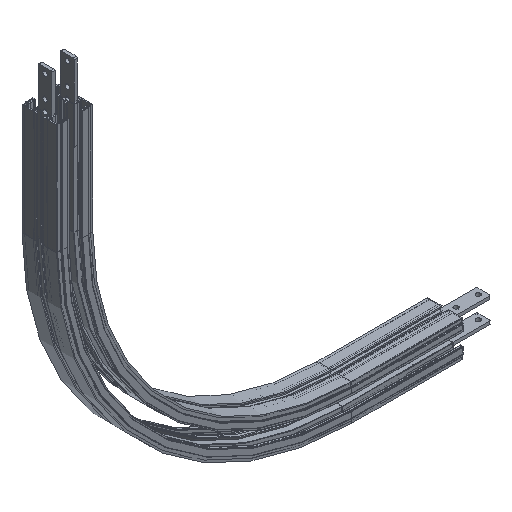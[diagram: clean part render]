
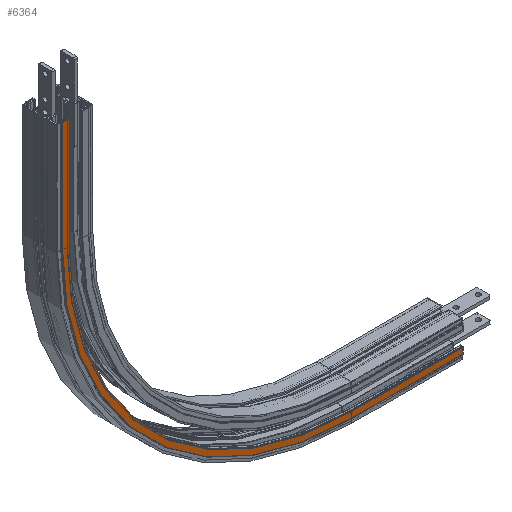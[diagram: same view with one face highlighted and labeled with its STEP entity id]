
A CAD part, isometric view. The second image highlights one B-rep face of the part: STEP entity #6364.
In plain terms, the highlighted planar face has unit normal (0, -1, 0) as drawn and (0, 1, 0) by its records, which use the part's own axes.
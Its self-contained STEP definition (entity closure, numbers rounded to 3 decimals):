
#395 = ORIENTED_EDGE ( 'NONE', *, *, #470, .F. ) ;
#396 = ORIENTED_EDGE ( 'NONE', *, *, #471, .F. ) ;
#397 = ORIENTED_EDGE ( 'NONE', *, *, #472, .F. ) ;
#398 = ORIENTED_EDGE ( 'NONE', *, *, #473, .T. ) ;
#399 = ORIENTED_EDGE ( 'NONE', *, *, #467, .T. ) ;
#400 = ORIENTED_EDGE ( 'NONE', *, *, #474, .T. ) ;
#401 = ORIENTED_EDGE ( 'NONE', *, *, #475, .T. ) ;
#402 = ORIENTED_EDGE ( 'NONE', *, *, #476, .F. ) ;
#467 = EDGE_CURVE ( 'NONE', #6176, #6172, #16965, .T. ) ;
#470 = EDGE_CURVE ( 'NONE', #6178, #6169, #16996, .T. ) ;
#471 = EDGE_CURVE ( 'NONE', #6177, #6178, #6218, .T. ) ;
#472 = EDGE_CURVE ( 'NONE', #6179, #6177, #6217, .T. ) ;
#473 = EDGE_CURVE ( 'NONE', #6179, #6176, #6209, .T. ) ;
#474 = EDGE_CURVE ( 'NONE', #6172, #6173, #6227, .T. ) ;
#475 = EDGE_CURVE ( 'NONE', #6173, #6182, #6230, .T. ) ;
#476 = EDGE_CURVE ( 'NONE', #6169, #6182, #6233, .T. ) ;
#4837 = EDGE_LOOP ( 'NONE', ( #395, #396, #397, #398, #399, #400, #401, #402 ) ) ;
#6169 = VERTEX_POINT ( 'NONE', #15971 ) ;
#6172 = VERTEX_POINT ( 'NONE', #15974 ) ;
#6173 = VERTEX_POINT ( 'NONE', #15975 ) ;
#6176 = VERTEX_POINT ( 'NONE', #15978 ) ;
#6177 = VERTEX_POINT ( 'NONE', #15979 ) ;
#6178 = VERTEX_POINT ( 'NONE', #15980 ) ;
#6179 = VERTEX_POINT ( 'NONE', #15981 ) ;
#6182 = VERTEX_POINT ( 'NONE', #15984 ) ;
#6206 = CARTESIAN_POINT ( 'NONE',  ( 200., 1.6, 500. ) ) ;
#6207 = DIRECTION ( 'NONE',  ( 0., 1., 0. ) ) ;
#6208 = DIRECTION ( 'NONE',  ( 0., 0., 1. ) ) ;
#6209 = LINE ( 'NONE', #6225, #16973 ) ;
#6213 = CARTESIAN_POINT ( 'NONE',  ( 712.05, 1.6, 700. ) ) ;
#6217 = LINE ( 'NONE', #6223, #16954 ) ;
#6218 = LINE ( 'NONE', #6213, #16980 ) ;
#6219 = CARTESIAN_POINT ( 'NONE',  ( 200., 1.6, 500. ) ) ;
#6220 = DIRECTION ( 'NONE',  ( 0., 1., 0. ) ) ;
#6221 = DIRECTION ( 'NONE',  ( 0., 0., 1. ) ) ;
#6222 = DIRECTION ( 'NONE',  ( 0., 0., -1. ) ) ;
#6223 = CARTESIAN_POINT ( 'NONE',  ( 723.59, 1.6, 700. ) ) ;
#6224 = DIRECTION ( 'NONE',  ( -1., 0., 0. ) ) ;
#6225 = CARTESIAN_POINT ( 'NONE',  ( 723.59, 1.6, 700. ) ) ;
#6226 = DIRECTION ( 'NONE',  ( 0., 0., -1. ) ) ;
#6227 = LINE ( 'NONE', #6228, #16989 ) ;
#6228 = CARTESIAN_POINT ( 'NONE',  ( 200., 1.6, -23.59 ) ) ;
#6229 = DIRECTION ( 'NONE',  ( -1., 0., 0. ) ) ;
#6230 = LINE ( 'NONE', #6231, #16997 ) ;
#6231 = CARTESIAN_POINT ( 'NONE',  ( 0., 1.6, -23.59 ) ) ;
#6232 = DIRECTION ( 'NONE',  ( 0., 0., 1. ) ) ;
#6233 = LINE ( 'NONE', #6234, #16958 ) ;
#6234 = CARTESIAN_POINT ( 'NONE',  ( 200., 1.6, -12.05 ) ) ;
#6235 = DIRECTION ( 'NONE',  ( -1., 0., 0. ) ) ;
#6364 = ADVANCED_FACE ( 'NONE', ( #16119 ), #16125, .F. ) ;
#14883 = AXIS2_PLACEMENT_3D ( 'NONE', #16122, #16127, #16128 ) ;
#15971 = CARTESIAN_POINT ( 'NONE',  ( 200., 1.6, -12.05 ) ) ;
#15974 = CARTESIAN_POINT ( 'NONE',  ( 200., 1.6, -23.59 ) ) ;
#15975 = CARTESIAN_POINT ( 'NONE',  ( 0., 1.6, -23.59 ) ) ;
#15978 = CARTESIAN_POINT ( 'NONE',  ( 723.59, 1.6, 500. ) ) ;
#15979 = CARTESIAN_POINT ( 'NONE',  ( 712.05, 1.6, 700. ) ) ;
#15980 = CARTESIAN_POINT ( 'NONE',  ( 712.05, 1.6, 500. ) ) ;
#15981 = CARTESIAN_POINT ( 'NONE',  ( 723.59, 1.6, 700. ) ) ;
#15984 = CARTESIAN_POINT ( 'NONE',  ( 0., 1.6, -12.05 ) ) ;
#16119 = FACE_OUTER_BOUND ( 'NONE', #4837, .T. ) ;
#16122 = CARTESIAN_POINT ( 'NONE',  ( 723.59, 1.6, 500. ) ) ;
#16125 = PLANE ( 'NONE',  #14883 ) ;
#16127 = DIRECTION ( 'NONE',  ( 0., -1., 0. ) ) ;
#16128 = DIRECTION ( 'NONE',  ( 0., 0., -1. ) ) ;
#16954 = VECTOR ( 'NONE', #6224, 1000. ) ;
#16957 = AXIS2_PLACEMENT_3D ( 'NONE', #6219, #6220, #6221 ) ;
#16958 = VECTOR ( 'NONE', #6235, 1000. ) ;
#16965 = CIRCLE ( 'NONE', #16972, 523.59 ) ;
#16972 = AXIS2_PLACEMENT_3D ( 'NONE', #6206, #6207, #6208 ) ;
#16973 = VECTOR ( 'NONE', #6226, 1000. ) ;
#16980 = VECTOR ( 'NONE', #6222, 1000. ) ;
#16989 = VECTOR ( 'NONE', #6229, 1000. ) ;
#16996 = CIRCLE ( 'NONE', #16957, 512.05 ) ;
#16997 = VECTOR ( 'NONE', #6232, 1000. ) ;
